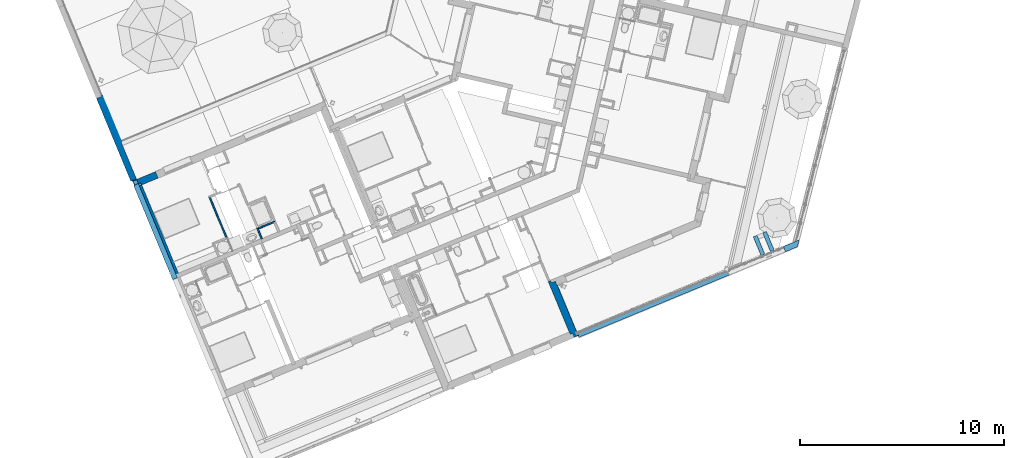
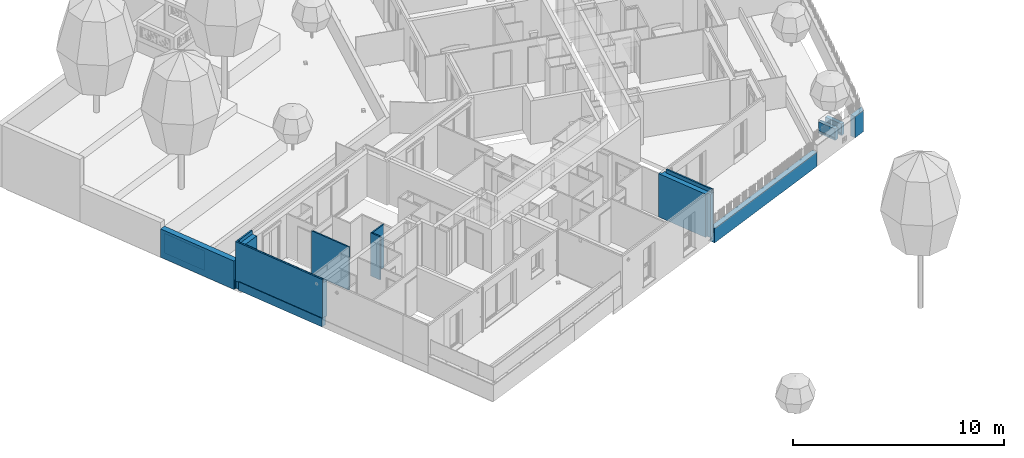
# One storey, part 39 of 119: 13 walls.
"""IFC2X3 building model written with IfcOpenShell, lengths in metres."""

from ifc_helpers import new_model, entity, si_unit, converted_unit, derived_unit, money_unit, direction, frame, origin_with_axes, place, context, subcontext, project, spatial, faceted_brep, material, material_list, type_object, element, save


model = new_model("IFC2X3")

# Units and contexts
model_context = context("Model", 3, precision=1e-05, world=origin_with_axes(), true_north=direction((0.0, 1.0)))
body_context = subcontext(model_context, "Body", "Model", "MODEL_VIEW")
ifc_project = project(units=[si_unit("LENGTHUNIT", "METRE"), si_unit("AREAUNIT", "SQUARE_METRE"), si_unit("VOLUMEUNIT", "CUBIC_METRE"), converted_unit("PLANEANGLEUNIT", "DEGREE", entity("IfcPlaneAngleMeasure", 0.0174532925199), si_unit("PLANEANGLEUNIT", "RADIAN"), dimensions=[0, 0, 0, 0, 0, 0, 0]), si_unit("SOLIDANGLEUNIT", "STERADIAN"), money_unit("EUR"), converted_unit("TIMEUNIT", "Year", entity("IfcTimeMeasure", 31556926.0), si_unit("TIMEUNIT", "SECOND"), dimensions=[0, 0, 1, 0, 0, 0, 0]), si_unit("MASSUNIT", "GRAM", prefix="KILO"), si_unit("THERMODYNAMICTEMPERATUREUNIT", "DEGREE_CELSIUS"), si_unit("LUMINOUSINTENSITYUNIT", "LUMEN"), si_unit("ENERGYUNIT", "JOULE", prefix="MEGA"), derived_unit("THERMALCONDUCTANCEUNIT", [(si_unit("POWERUNIT", "WATT"), 1), (si_unit("LENGTHUNIT", "METRE"), -1), (si_unit("THERMODYNAMICTEMPERATUREUNIT", "KELVIN"), -1)]), derived_unit("SPECIFICHEATCAPACITYUNIT", [(si_unit("ENERGYUNIT", "JOULE"), 1), (si_unit("MASSUNIT", "GRAM", prefix="KILO"), -1), (si_unit("THERMODYNAMICTEMPERATUREUNIT", "KELVIN"), -1)]), derived_unit("MASSDENSITYUNIT", [(si_unit("MASSUNIT", "GRAM", prefix="KILO"), 1), (si_unit("VOLUMEUNIT", "CUBIC_METRE"), -1)])], contexts=[model_context])

# Site, building, storey
site_placement = place(None, origin_with_axes())
site = spatial("IfcSite", under=ifc_project, at=site_placement, Name="Site", CompositionType="ELEMENT")
building_placement = place(site_placement, origin_with_axes())
building = spatial("IfcBuilding", under=site, at=building_placement, Name="Bâtiment", CompositionType="ELEMENT")
storey_placement = place(building_placement, origin_with_axes())
storey = spatial("IfcBuildingStorey", under=building, at=storey_placement, Name="Rez-de-chaussée", CompositionType="ELEMENT", Elevation=0.0)

# Walls
ifc_material_1 = material(Name="Béton")
wall_type_1 = type_object("IfcWallType", Name="Béton 250", PredefinedType="USERDEFINED")
wall_1_placement = place(storey_placement, frame((-35.2116187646, -17.8331410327, 0.0), z_axis=(0.0, 0.0, 1.0), x_axis=(0.383112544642, -0.923701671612, 0.0)))
element("IfcWall", 1, at=wall_1_placement, inside=storey, type_object=wall_type_1, material=ifc_material_1, Name="Voile projeté béton par passes alternées", ObjectType="SOLIDWALL", context=body_context, shape_type="Brep", body=[
    faceted_brep([(0.240000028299, 0.0, 0.493), (0.240000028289, -0.25, 0.493), (5.23682591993, -0.25, 0.493), (5.23682591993, 0.0, 0.493), (0.240000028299, 0.0, 0.0), (0.240000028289, -0.25, 0.0), (5.23682591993, -0.25, 0.0), (5.23682591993, 0.0, 0.0)], [[[0, 1, 2, 3]], [[4, 5, 1, 0]], [[1, 5, 6, 2]], [[7, 3, 2, 6]], [[4, 0, 3, 7]], [[5, 4, 7, 6]]]),
    faceted_brep([(0.0400000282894, -0.25, 0.493), (0.0400000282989, 0.0, 0.493), (0.0, 0.0, 0.493), (0.0, -0.25, 0.493), (0.0400000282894, -0.25, 0.0), (0.0400000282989, 0.0, 0.0), (0.0, 0.0, 0.0), (0.0, -0.25, 0.0)], [[[0, 1, 2, 3]], [[1, 0, 4, 5]], [[1, 5, 6, 2]], [[7, 3, 2, 6]], [[4, 0, 3, 7]], [[5, 4, 7, 6]]]),
])
wall_type_2 = type_object("IfcWallType", Name="Béton 300", PredefinedType="USERDEFINED")
wall_2_placement = place(storey_placement, frame((-36.8907744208, -13.7846208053, -0.03), z_axis=(0.0, 0.0, 1.0), x_axis=(0.383112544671, -0.9237016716, 0.0)))
element("IfcWall", 2, at=wall_2_placement, inside=storey, type_object=wall_type_2, material=ifc_material_1, Name="Voile projeté béton par passes alternées", ObjectType="SOLIDWALL", context=body_context, shape_type="Brep", body=[
    faceted_brep([(0.0, -0.3, 1.64189183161), (4.38293049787, -0.3, 1.64189183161), (4.38293049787, 0.0, 1.64189183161), (0.0, 0.0, 1.64189183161), (0.0, -0.3, 0.0), (4.38293049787, -0.3, 0.0), (4.38293049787, 0.0, 0.0), (0.0, 0.0, 0.0)], [[[0, 1, 2, 3]], [[4, 5, 1, 0]], [[2, 1, 5, 6]], [[3, 2, 6, 7]], [[4, 0, 3, 7]], [[7, 6, 5, 4]]]),
])
ifc_material_2 = material(Name="Parpaing 20cm")
wall_type_3 = type_object("IfcWallType", Name="Parpaing 20cm 200", PredefinedType="STANDARD")
wall_3_placement = place(storey_placement, frame((-4.39292395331, -20.3984826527, 0.0), z_axis=(0.0, 0.0, 1.0), x_axis=(0.383112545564, -0.923701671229, 0.0)))
element("IfcWall", 3, at=wall_3_placement, inside=storey, type_object=wall_type_3, material=ifc_material_2, Name="M_Ext-012", ObjectType="STANDARD", context=body_context, shape_type="Brep", body=[
    faceted_brep([(0.0, 0.0, 0.01), (0.0, 0.0, 0.110000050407), (0.955974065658, 0.0, 0.110000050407), (0.955974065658, 0.0, 0.150000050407), (0.0, 0.0, 0.150000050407), (0.0, 0.0, 0.67), (0.985000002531, 0.0, 0.67), (0.985000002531, 0.0, 0.0), (0.955974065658, 0.0, 0.0), (0.955974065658, 0.0, 0.01), (0.0, -0.2, 0.01), (0.0, -0.2, 0.110000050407), (0.956501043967, -0.2, 0.110000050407), (0.956501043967, -0.2, 0.150000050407), (0.0, -0.2, 0.150000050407), (0.0, -0.2, 0.67), (0.985000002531, -0.2, 0.67), (0.985000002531, -0.2, 0.0), (0.956501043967, -0.2, 0.0), (0.956501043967, -0.2, 0.01)], [[[0, 1, 2, 3, 4, 5, 6, 7, 8, 9]], [[10, 11, 1, 0]], [[12, 2, 1, 11]], [[13, 3, 2, 12]], [[14, 4, 3, 13]], [[5, 4, 14, 15]], [[5, 15, 16, 6]], [[7, 6, 16, 17]], [[17, 18, 8, 7]], [[19, 9, 8, 18]], [[10, 0, 9, 19]], [[13, 12, 11, 10, 19, 18, 17, 16, 15, 14]]]),
])
wall_4_placement = place(storey_placement, frame((-4.85477478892, -20.5900389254, 0.0), z_axis=(0.0, 0.0, 1.0), x_axis=(0.383112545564, -0.923701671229, 0.0)))
element("IfcWall", 4, at=wall_4_placement, inside=storey, type_object=wall_type_3, material=ifc_material_2, Name="M_Ext-012", ObjectType="STANDARD", context=body_context, shape_type="Brep", body=[
    faceted_brep([(0.0, 0.0, 0.01), (0.0, 0.0, 0.110000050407), (0.957291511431, 0.0, 0.110000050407), (0.957291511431, 0.0, 0.150000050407), (0.0, 0.0, 0.150000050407), (0.0, 0.0, 0.67), (0.985000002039, 0.0, 0.67), (0.985000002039, 0.0, 0.0), (0.957291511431, 0.0, 0.0), (0.957291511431, 0.0, 0.01), (0.0, -0.2, 0.01), (0.0, -0.2, 0.110000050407), (0.95781848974, -0.2, 0.110000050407), (0.95781848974, -0.2, 0.150000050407), (0.0, -0.2, 0.150000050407), (0.0, -0.2, 0.67), (0.985000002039, -0.2, 0.67), (0.985000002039, -0.2, 0.0), (0.95781848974, -0.2, 0.0), (0.95781848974, -0.2, 0.01)], [[[0, 1, 2, 3, 4, 5, 6, 7, 8, 9]], [[10, 11, 1, 0]], [[12, 2, 1, 11]], [[13, 3, 2, 12]], [[14, 4, 3, 13]], [[5, 4, 14, 15]], [[5, 15, 16, 6]], [[7, 6, 16, 17]], [[17, 18, 8, 7]], [[19, 9, 8, 18]], [[10, 0, 9, 19]], [[13, 12, 11, 10, 19, 18, 17, 16, 15, 14]]]),
])
ifc_material_3 = material(Name="Finition int - Plaque de plâtre")
ifc_material_4 = material(Name="Isolation - Laine de roche")
ifc_material_list_1 = material_list([ifc_material_3, ifc_material_4, ifc_material_3])
wall_type_4 = type_object("IfcWallType", Name="3 - Cloison 72mm Placostil 74", PredefinedType="USERDEFINED")
wall_5_placement = place(storey_placement, frame((-30.8490440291, -20.7036228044, 0.0), z_axis=(0.0, 0.0, 1.0), x_axis=(-0.383112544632, 0.923701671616, 0.0)))
element("IfcWall", 5, at=wall_5_placement, inside=storey, type_object=wall_type_4, material=ifc_material_list_1, Name="Cloison Placostil 72/48", ObjectType="PARTITIONING", context=body_context, shape_type="Brep", body=[
    faceted_brep([(2.16755054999, -0.013, 2.5), (2.16755054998, 0.0, 2.5), (-0.013, 0.0, 2.5), (-0.0130000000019, -0.013, 2.5), (2.16755054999, -0.013, 0.0), (2.16755054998, 0.0, 0.0), (-0.013, 0.0, 0.0), (-0.0130000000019, -0.013, 0.0)], [[[0, 1, 2, 3]], [[1, 0, 4, 5]], [[1, 5, 6, 2]], [[7, 3, 2, 6]], [[4, 0, 3, 7]], [[5, 4, 7, 6]]]),
    faceted_brep([(2.11955055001, -0.061, 2.5), (2.11955054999, -0.013, 2.5), (-0.0610000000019, -0.013, 2.5), (-0.061000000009, -0.061, 2.5), (2.11955055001, -0.061, 0.0), (2.11955054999, -0.013, 0.0), (-0.0610000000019, -0.013, 0.0), (-0.061000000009, -0.061, 0.0)], [[[0, 1, 2, 3]], [[1, 0, 4, 5]], [[1, 5, 6, 2]], [[7, 3, 2, 6]], [[4, 0, 3, 7]], [[5, 4, 7, 6]]]),
    faceted_brep([(2.10655055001, -0.074, 2.5), (2.10655055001, -0.061, 2.5), (-0.074000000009, -0.061, 2.5), (-0.0740000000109, -0.074, 2.5), (2.10655055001, -0.074, 0.0), (2.10655055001, -0.061, 0.0), (-0.074000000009, -0.061, 0.0), (-0.0740000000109, -0.074, 0.0)], [[[0, 1, 2, 3]], [[1, 0, 4, 5]], [[1, 5, 6, 2]], [[7, 3, 2, 6]], [[4, 0, 3, 7]], [[5, 4, 7, 6]]]),
])
wall_type_5 = type_object("IfcWallType", Name="3 - Cloison Gaine Technique 72mm 74", PredefinedType="USERDEFINED")
wall_6_placement = place(storey_placement, frame((-29.3334564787, -20.2493196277, 0.0), z_axis=(0.0, 0.0, 1.0), x_axis=(0.923701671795, 0.383112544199, 0.0)))
element("IfcWall", 6, at=wall_6_placement, inside=storey, type_object=wall_type_5, material=ifc_material_list_1, Name="Cloison Placostil 72/48", ObjectType="PARTITIONING", context=body_context, shape_type="Brep", body=[
    faceted_brep([(0.0130000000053, -0.013, 0.0), (0.926000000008, -0.013, 0.0), (0.926000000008, -0.013, 2.5), (0.0130000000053, -0.013, 2.5), (0.013, 0.0, 0.0), (0.926000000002, 0.0, 0.0), (0.926000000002, 0.0, 2.5), (0.013, 0.0, 2.5)], [[[0, 1, 2, 3]], [[4, 5, 1, 0]], [[5, 6, 2, 1]], [[3, 2, 6, 7]], [[4, 0, 3, 7]], [[7, 6, 5, 4]]]),
    faceted_brep([(0.0610000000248, -0.061, 2.5), (0.96100000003, -0.061, 2.5), (0.961000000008, -0.013, 2.5), (0.0610000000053, -0.013, 2.5), (0.0610000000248, -0.061, 0.0), (0.96100000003, -0.061, 0.0), (0.961000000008, -0.013, 0.0), (0.0610000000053, -0.013, 0.0)], [[[0, 1, 2, 3]], [[4, 5, 1, 0]], [[6, 2, 1, 5]], [[3, 2, 6, 7]], [[7, 4, 0, 3]], [[7, 6, 5, 4]]]),
    faceted_brep([(0.0740000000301, -0.074, 2.5), (0.900000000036, -0.074, 2.5), (0.90000000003, -0.061, 2.5), (0.0740000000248, -0.061, 2.5), (0.0740000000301, -0.074, 0.0), (0.900000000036, -0.074, 0.0), (0.90000000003, -0.061, 0.0), (0.0740000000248, -0.061, 0.0)], [[[0, 1, 2, 3]], [[4, 5, 1, 0]], [[6, 2, 1, 5]], [[3, 2, 6, 7]], [[7, 4, 0, 3]], [[7, 6, 5, 4]]]),
])
wall_7_placement = place(storey_placement, frame((-29.112017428, -20.7832191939, 0.0), z_axis=(0.0, 0.0, 1.0), x_axis=(-0.383112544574, 0.92370167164, 0.0)))
element("IfcWall", 7, at=wall_7_placement, inside=storey, type_object=wall_type_5, material=ifc_material_list_1, Name="Cloison Placostil 72/48", ObjectType="PARTITIONING", context=body_context, shape_type="Brep", body=[
    faceted_brep([(0.577999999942, -0.013, 2.5), (0.577999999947, 0.0, 2.5), (0.00499999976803, 0.0, 2.5), (0.00499999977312, -0.013, 2.5), (0.577999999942, -0.013, 0.0), (0.577999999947, 0.0, 0.0), (0.00499999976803, 0.0, 0.0), (0.00499999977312, -0.013, 0.0)], [[[0, 1, 2, 3]], [[1, 0, 4, 5]], [[1, 5, 6, 2]], [[7, 3, 2, 6]], [[4, 0, 3, 7]], [[5, 4, 7, 6]]]),
    faceted_brep([(0.564999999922, -0.061, 2.5), (0.564999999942, -0.013, 2.5), (0.00499999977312, -0.013, 2.5), (0.00499999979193, -0.061, 2.5), (0.564999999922, -0.061, 0.0), (0.564999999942, -0.013, 0.0), (0.00499999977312, -0.013, 0.0), (0.00499999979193, -0.061, 0.0)], [[[0, 1, 2, 3]], [[1, 0, 4, 5]], [[1, 5, 6, 2]], [[7, 3, 2, 6]], [[4, 0, 3, 7]], [[5, 4, 7, 6]]]),
    faceted_brep([(0.516999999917, -0.074, 2.5), (0.516999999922, -0.061, 2.5), (0.00499999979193, -0.061, 2.5), (0.00499999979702, -0.074, 2.5), (0.516999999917, -0.074, 0.0), (0.516999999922, -0.061, 0.0), (0.00499999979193, -0.061, 0.0), (0.00499999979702, -0.074, 0.0)], [[[0, 1, 2, 3]], [[1, 0, 4, 5]], [[1, 5, 6, 2]], [[7, 3, 2, 6]], [[4, 0, 3, 7]], [[5, 4, 7, 6]]]),
])
ifc_material_5 = material(Name="Métal - Aluminium")
ifc_material_6 = material(Name="Finition ext - Crépis")
ifc_material_7 = material(Name="Etanchéité - Bitume")
ifc_material_8 = material(Name="Béton cellulaire")
ifc_material_9 = material(Name="Mortier")
ifc_material_10 = material(Name="Isolation - Polystyrène expansé")
ifc_material_11 = material(Name="Bloc ELITHERM")
ifc_material_12 = material(Name="Isolation - Polystyrène extrudé")
ifc_material_list_2 = material_list([ifc_material_5, ifc_material_6, ifc_material_7, ifc_material_8, ifc_material_9, ifc_material_10, ifc_material_11, ifc_material_12, ifc_material_3])
wall_type_6 = type_object("IfcWallType", Name="Mur ALKERN + planelle 21 TERRASSE RDC 356 x 2720", PredefinedType="USERDEFINED")
wall_8_placement = place(storey_placement, frame((-14.6068307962, -23.0338728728, 0.0), z_axis=(0.0, 0.0, 1.0), x_axis=(0.383112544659, -0.923701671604, 0.0)))
element("IfcWall", 8, at=wall_8_placement, inside=storey, type_object=wall_type_6, material=ifc_material_list_2, Name="Mue bloc ALKERN isolé", ObjectType="SOLIDWALL", context=body_context, shape_type="Brep", body=[
    faceted_brep([(-0.0310453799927, -0.0300000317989, 0.176532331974), (-0.0310453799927, -0.03, 0.207793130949), (2.67876148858, -0.03, 0.207793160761), (2.67876148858, -0.0300000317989, 0.176532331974), (-0.0310453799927, -0.0310453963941, 0.207793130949), (-0.0310453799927, -0.0310453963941, 0.176532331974), (2.67876148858, -0.0310453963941, 0.207793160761), (2.67876148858, -0.0310453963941, 0.169727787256), (2.67876148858, -0.03, 0.169414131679), (2.67876148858, -0.00479482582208, 0.161852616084), (2.67876148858, -0.00479482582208, 0.133633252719), (2.67876148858, -0.0035607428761, 0.133633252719), (2.67876148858, -0.0035607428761, 0.162931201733), (2.67876148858, -0.03, 0.170774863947), (-0.0310453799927, -0.03, 0.170774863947), (-0.0310453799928, -0.0264705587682, 0.169727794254), (-0.0310453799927, -0.0310453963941, 0.169727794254), (-0.0299999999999, -0.03, 0.169414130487), (-0.00479484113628, -0.00479482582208, 0.161852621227), (-0.00479484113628, -0.00479482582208, 0.160000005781), (-0.00479484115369, -0.00479482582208, 0.133633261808), (-0.0047948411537, -0.0035607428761, 0.133633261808), (-0.00479484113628, -0.0035607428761, 0.161852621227), (-0.00839013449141, -0.0035607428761, 0.162931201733), (-0.00479484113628, -0.0035607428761, 0.160000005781), (-0.0299999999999, -0.025413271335, 0.169414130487)], [[[0, 1, 2, 3]], [[4, 1, 0, 5]], [[1, 4, 6, 2]], [[3, 2, 6, 7, 8, 9, 10, 11, 12, 13]], [[0, 3, 13, 14]], [[5, 0, 14, 15, 16]], [[4, 5, 16, 7, 6]], [[17, 8, 7, 16]], [[9, 8, 17, 18]], [[9, 18, 19, 20, 10]], [[11, 10, 20, 21]], [[22, 23, 12, 11, 21, 24]], [[12, 23, 25, 15, 14, 13]], [[25, 17, 16, 15]], [[23, 22, 18, 17, 25]], [[19, 18, 22, 24]], [[21, 20, 19, 24]]]),
    faceted_brep([(-0.0299999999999, -0.0299999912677, 2.72), (1.96999999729, -0.0299999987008, 2.72), (1.96999999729, -0.0150000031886, 2.72), (-0.03, -0.0150000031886, 2.72), (2.67876148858, -0.0299999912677, 2.72), (2.12999999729, -0.0299999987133, 2.72), (2.12999999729, -0.0299999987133, 2.51999999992), (2.12999999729, -0.0299999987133, 2.50955), (2.12999999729, -0.0299999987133, 2.50872065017), (2.12999999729, -0.0299999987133, 2.5), (2.11499999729, -0.0299999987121, 2.5), (2.0952590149, -0.0299999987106, 2.5), (1.96999999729, -0.0299999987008, 2.5), (1.96999999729, -0.0299999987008, 2.50872065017), (1.96999999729, -0.0299999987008, 2.50955), (1.96999999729, -0.0299999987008, 2.51999999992), (-0.0299999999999, -0.0300000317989, 2.51999999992), (-0.0299999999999, -0.0300000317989, 2.50955), (-0.0299999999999, -0.0300000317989, 0.207793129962), (-0.0300000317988, -0.0300000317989, 0.176532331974), (2.67876148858, -0.0300000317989, 0.176532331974), (1.96999999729, -0.0150000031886, 2.51999999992), (2.12999999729, -0.0150000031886, 2.50955), (2.12999999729, -0.0150000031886, 2.51999999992), (2.12999999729, -0.0150000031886, 2.72), (2.67876148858, -0.0150000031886, 2.72), (2.67876148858, -0.0150000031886, 0.176532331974), (-0.0300000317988, -0.0150000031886, 0.176532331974), (-0.0299999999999, -0.0150000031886, 0.207793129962), (-0.0299999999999, -0.0150000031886, 2.50955), (-0.0299999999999, -0.0150000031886, 2.51999999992), (1.96999999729, -0.0150000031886, 2.50955), (1.96999999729, -0.0150000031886, 2.50872065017), (1.96999999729, -0.0150000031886, 2.5), (2.09525901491, -0.0150000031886, 2.5), (2.11499999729, -0.0150000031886, 2.5), (2.12999999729, -0.0150000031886, 2.5), (2.12999999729, -0.0150000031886, 2.50872065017)], [[[0, 1, 2, 3]], [[4, 5, 6, 7, 8, 9, 10, 11, 12, 13, 14, 15, 1, 0, 16, 17, 18, 19, 20]], [[15, 21, 2, 1]], [[22, 23, 24, 25, 26, 27, 28, 29, 30, 3, 2, 21, 31, 32, 33, 34, 35, 36, 37]], [[16, 0, 3, 30]], [[25, 24, 5, 4]], [[6, 5, 24, 23]], [[7, 6, 23, 22]], [[8, 7, 22, 37]], [[9, 8, 37, 36]], [[9, 36, 35, 10]], [[11, 10, 35, 34]], [[12, 11, 34, 33]], [[33, 32, 13, 12]], [[32, 31, 14, 13]], [[31, 21, 15, 14]], [[17, 16, 30, 29]], [[18, 17, 29, 28]], [[19, 18, 28, 27]], [[20, 19, 27, 26]], [[4, 20, 26, 25]]]),
    faceted_brep([(2.46229456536, -0.02, 0.01), (-0.029999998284, -0.02, 0.01), (-0.0300000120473, -0.02, 0.160000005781), (2.66376152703, -0.02, 0.160000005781), (2.66376152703, -0.02, 0.0), (2.46229456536, -0.02, 0.0), (2.46229456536, -0.0299999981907, 0.01), (-0.029999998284, -0.0299999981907, 0.01), (-0.0300000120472, -0.0300000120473, 0.160000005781), (2.66376152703, -0.0300000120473, 0.160000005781), (2.66376152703, -0.0300000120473, 0.0), (2.46229456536, -0.0299999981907, 0.0)], [[[0, 1, 2, 3, 4, 5]], [[1, 0, 6, 7]], [[1, 7, 8, 2]], [[8, 9, 3, 2]], [[4, 3, 9, 10]], [[11, 5, 4, 10]], [[0, 5, 11, 6]], [[6, 11, 10, 9, 8, 7]]]),
    faceted_brep([(2.66376152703, -0.0780000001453, 2.72), (2.66376152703, -0.03, 2.72), (-0.0780000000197, -0.03, 2.72), (-0.0780000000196, -0.0780000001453, 2.72), (2.66376152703, -0.03, 2.51999999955), (2.66376152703, -0.0780000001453, 2.51999999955), (-0.0780000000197, -0.03, 2.51999999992), (-0.0780000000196, -0.0780000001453, 2.51999999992)], [[[0, 1, 2, 3]], [[4, 1, 0, 5]], [[1, 4, 6, 2]], [[3, 2, 6, 7]], [[5, 0, 3, 7]], [[4, 5, 7, 6]]]),
    faceted_brep([(2.66376152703, -0.03, 2.51999999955), (2.66376152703, -0.03, 2.50999999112), (2.67876151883, -0.03, 2.50999999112), (2.67876148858, -0.03, 2.50955000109), (-0.0980000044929, -0.03, 2.50955002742), (-0.0980000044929, -0.03, 2.52), (2.66376152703, -0.098, 2.51999999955), (2.66376152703, -0.098, 2.50999999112), (2.67876151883, -0.098, 2.50999999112), (2.67876148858, -0.098, 2.50955000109), (-0.0980000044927, -0.098, 2.50955002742), (-0.0980000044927, -0.098, 2.52)], [[[0, 1, 2, 3, 4, 5]], [[1, 0, 6, 7]], [[8, 2, 1, 7]], [[2, 8, 9, 3]], [[4, 3, 9, 10]], [[10, 11, 5, 4]], [[6, 0, 5, 11]], [[7, 6, 11, 10, 9, 8]]]),
    faceted_brep([(-0.0978967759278, -0.0780000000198, 2.51999999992), (-0.0978967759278, -0.0780000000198, 2.72), (2.61576151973, -0.0780000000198, 2.72), (2.61576151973, -0.0780000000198, 2.51999999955), (-0.0978537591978, -0.09799984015, 2.72), (-0.0978537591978, -0.09799984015, 2.51999999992), (2.61576151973, -0.0980000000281, 2.72), (2.61576151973, -0.0980000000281, 2.51999999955)], [[[0, 1, 2, 3]], [[4, 1, 0, 5]], [[1, 4, 6, 2]], [[7, 3, 2, 6]], [[5, 0, 3, 7]], [[4, 5, 7, 6]]]),
    faceted_brep([(2.66376152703, -0.0979999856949, 2.50955), (2.66376152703, -0.03, 2.50955), (-0.22999997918, -0.03, 2.50955001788), (-0.22999997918, -0.0979999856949, 2.50955001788), (2.66376152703, -0.03, 0.207793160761), (2.66376152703, -0.229999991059, 2.50955), (2.66376152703, -0.229999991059, 0.207793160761), (2.66376152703, -0.0310453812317, 0.207793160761), (-0.22999997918, -0.03, 0.207793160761), (-0.229999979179, -0.229999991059, 2.50955001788), (-0.22999997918, -0.0310453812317, 0.207793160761), (-0.229999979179, -0.229999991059, 0.207793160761), (-0.229999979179, -0.229999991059, 0.176532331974), (-0.229999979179, -0.229999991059, 0.169414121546), (-0.229999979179, -0.229999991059, 0.160000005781), (-0.229999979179, -0.229999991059, 0.133633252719), (-0.229999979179, -0.229999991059, 0.0), (2.66376152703, -0.229999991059, 0.0), (2.66376152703, -0.229999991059, 0.133633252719), (2.66376152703, -0.229999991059, 0.160000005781), (2.66376152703, -0.229999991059, 0.169414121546), (2.66376152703, -0.229999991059, 0.176532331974), (2.66376152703, -0.0310453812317, 0.176532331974), (-0.22999997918, -0.0310453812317, 0.176532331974), (-0.22999997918, -0.0310453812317, 0.169727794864), (-0.22999997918, -0.03, 0.169414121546), (-0.22999997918, -0.0300000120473, 0.160000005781), (-0.22999997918, -0.0300000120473, 0.133633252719), (-0.22999997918, -0.03, 0.0), (2.66376152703, -0.03, 0.0), (2.66376152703, -0.0300000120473, 0.133633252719), (2.66376152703, -0.0300000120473, 0.160000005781), (2.66376152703, -0.03, 0.169414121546), (2.66376152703, -0.0310453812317, 0.169727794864)], [[[0, 1, 2, 3]], [[4, 1, 0, 5, 6, 7]], [[1, 4, 8, 2]], [[9, 3, 2, 8, 10, 11]], [[5, 0, 3, 9]], [[6, 5, 9, 11, 12, 13, 14, 15, 16, 17, 18, 19, 20, 21]], [[7, 6, 21, 22]], [[4, 7, 10, 8]], [[12, 11, 10, 23]], [[23, 24, 25, 13, 12]], [[25, 26, 14, 13]], [[27, 15, 14, 26]], [[16, 15, 27, 28]], [[17, 16, 28, 29]], [[30, 18, 17, 29]], [[30, 31, 19, 18]], [[19, 31, 32, 20]], [[20, 32, 33, 22, 21]], [[24, 23, 10, 7, 22, 33]], [[25, 24, 33, 32]], [[25, 32, 31, 26]], [[31, 30, 29, 28, 27, 26]]]),
    faceted_brep([(-0.350000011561, -0.350000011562, 2.50955001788), (2.46376152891, -0.350000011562, 2.50955), (2.46376152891, -0.22999997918, 2.50955), (-0.350000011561, -0.22999997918, 2.50955001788), (2.46376152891, -0.350000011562, 0.176532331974), (2.46376152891, -0.350000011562, 0.207793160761), (-0.350000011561, -0.350000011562, 0.207793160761), (-0.350000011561, -0.350000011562, 0.176532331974), (-0.350000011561, -0.350000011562, 0.169414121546), (-0.350000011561, -0.350000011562, 0.160000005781), (-0.350000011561, -0.350000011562, 0.133633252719), (-0.350000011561, -0.350000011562, 0.0), (2.46376152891, -0.350000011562, 1.4305127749e-08), (2.46376152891, -0.350000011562, 0.133633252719), (2.46376152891, -0.350000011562, 0.160000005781), (2.46376152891, -0.350000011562, 0.169414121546), (2.46376152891, -0.22999997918, 0.207793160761), (2.46376152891, -0.22999997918, 0.176532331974), (2.46376152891, -0.22999997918, 0.169414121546), (2.46376152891, -0.22999997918, 0.160000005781), (2.46376152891, -0.22999997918, 0.133633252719), (2.46376152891, -0.22999997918, 1.4305127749e-08), (-0.350000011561, -0.22999997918, 0.0), (-0.350000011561, -0.22999997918, 0.133633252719), (-0.350000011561, -0.22999997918, 0.160000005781), (-0.350000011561, -0.22999997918, 0.169414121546), (-0.350000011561, -0.22999997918, 0.176532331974), (-0.350000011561, -0.22999997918, 0.207793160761)], [[[0, 1, 2, 3]], [[4, 5, 1, 0, 6, 7, 8, 9, 10, 11, 12, 13, 14, 15]], [[5, 16, 2, 1]], [[3, 2, 16, 17, 18, 19, 20, 21, 22, 23, 24, 25, 26, 27]], [[6, 0, 3, 27]], [[17, 16, 5, 4]], [[7, 6, 27, 26]], [[8, 7, 26, 25]], [[9, 8, 25, 24]], [[10, 9, 24, 23]], [[11, 10, 23, 22]], [[22, 21, 12, 11]], [[21, 20, 13, 12]], [[20, 19, 14, 13]], [[19, 18, 15, 14]], [[18, 17, 4, 15]]]),
    faceted_brep([(-0.360000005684, -0.359999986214, 2.50955002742), (2.34376150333, -0.359999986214, 2.50955), (2.34376150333, -0.350000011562, 2.50955), (-0.360000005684, -0.350000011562, 2.50955002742), (2.34376150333, -0.359999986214, 0.176532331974), (2.34376150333, -0.359999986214, 0.207793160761), (-0.360000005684, -0.359999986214, 0.0), (2.34376150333, -0.359999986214, 0.0), (2.34376150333, -0.359999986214, 0.133633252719), (2.34376150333, -0.359999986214, 0.160000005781), (2.34376150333, -0.359999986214, 0.169414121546), (2.34376150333, -0.350000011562, 0.207793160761), (2.34376150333, -0.350000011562, 0.176532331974), (2.34376150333, -0.350000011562, 0.169414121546), (2.34376150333, -0.350000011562, 0.160000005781), (2.34376150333, -0.350000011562, 0.133633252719), (2.34376150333, -0.350000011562, 0.0), (-0.360000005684, -0.350000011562, 0.0)], [[[0, 1, 2, 3]], [[4, 5, 1, 0, 6, 7, 8, 9, 10]], [[5, 11, 2, 1]], [[3, 2, 11, 12, 13, 14, 15, 16, 17]], [[17, 6, 0, 3]], [[12, 11, 5, 4]], [[17, 16, 7, 6]], [[16, 15, 8, 7]], [[15, 14, 9, 8]], [[14, 13, 10, 9]], [[13, 12, 4, 10]]]),
])
ifc_material_13 = material(Name="Etanchéité résine")
ifc_material_list_3 = material_list([ifc_material_6, ifc_material_1, ifc_material_13, ifc_material_12, ifc_material_3])
wall_type_7 = type_object("IfcWallType", Name="1 - Mur Extérieur BETON étanché+Isolant 120 + ravalement 345", PredefinedType="USERDEFINED")
wall_9_placement = place(storey_placement, frame((-35.3810345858, -17.9467116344, 0.0), z_axis=(0.0, 0.0, 1.0), x_axis=(0.923701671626, 0.383112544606, 0.0)))
element("IfcWall", 9, at=wall_9_placement, inside=storey, type_object=wall_type_7, material=ifc_material_list_3, Name="M_Ext-009", ObjectType="SOLIDWALL", context=body_context, shape_type="Brep", body=[
    faceted_brep([(-6.53798792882e-10, 0.0, 0.493), (0.199999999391, 0.0, 0.493), (0.199999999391, 0.0, 0.0), (1.19999999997, 0.0, 0.0), (1.19999999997, 0.0, 2.72), (-6.53798792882e-10, 0.0, 2.72), (0.199999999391, 0.0150000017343, 0.493), (-6.54644338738e-10, 0.015, 0.493), (0.199999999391, 0.0150000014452, 0.0), (1.19999999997, 0.015, 0.0), (1.19999999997, 0.015, 2.72), (-6.54644338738e-10, 0.015, 2.72)], [[[0, 1, 2, 3, 4, 5]], [[6, 1, 0, 7]], [[8, 2, 1, 6]], [[3, 2, 8, 9]], [[3, 9, 10, 4]], [[10, 11, 5, 4]], [[11, 7, 0, 5]], [[8, 6, 7, 11, 10, 9]]]),
    faceted_brep([(1.19999999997, -0.0679999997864, 2.72), (1.19999999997, -0.0679999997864, 2.51), (1.19999999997, -0.2, 2.51), (1.19999999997, -0.2, 0.0), (1.19999999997, 0.0, 0.0), (1.19999999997, 0.0, 2.72), (0.19999999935, -0.0679999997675, 2.72), (0.19999999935, -0.0679999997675, 2.51), (0.199999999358, -0.2, 2.51), (0.199999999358, -0.2, 0.433099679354), (-6.42423003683e-10, -0.2, 0.433099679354), (0.0, -0.2, 0.0), (0.0, 0.0, 0.0), (-6.53798792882e-10, 0.0, 0.433099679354), (0.199999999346, 0.0, 0.433099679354), (0.199999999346, 0.0, 2.72)], [[[0, 1, 2, 3, 4, 5]], [[1, 0, 6, 7]], [[8, 2, 1, 7]], [[2, 8, 9, 10, 11, 3]], [[4, 3, 11, 12]], [[13, 14, 15, 5, 4, 12]], [[6, 0, 5, 15]], [[7, 6, 15, 14, 9, 8]], [[13, 10, 9, 14]], [[11, 10, 13, 12]]]),
    faceted_brep([(1.19999999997, -0.2, 2.51), (1.19999999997, -0.21, 2.51), (1.19999999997, -0.21, 0.0), (1.19999999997, -0.2, 0.0), (0.209999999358, -0.21, 2.51), (0.209999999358, -0.2, 2.51), (0.209999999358, -0.21, 0.433099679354), (0.199999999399, -0.21, 0.433099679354), (0.199999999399, -0.21, 0.0), (0.199999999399, -0.2, 0.0), (0.199999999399, -0.2, 0.433099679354), (0.209999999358, -0.2, 0.433099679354)], [[[0, 1, 2, 3]], [[4, 1, 0, 5]], [[1, 4, 6, 7, 8, 2]], [[2, 8, 9, 3]], [[5, 0, 3, 9, 10, 11]], [[4, 5, 11, 6]], [[11, 10, 7, 6]], [[9, 8, 7, 10]]]),
    faceted_brep([(1.19999999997, -0.21, 2.51), (1.19999999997, -0.32, 2.51), (1.19999999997, -0.32, 0.0), (1.19999999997, -0.21, 0.0), (0.319999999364, -0.32, 2.51), (0.319999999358, -0.21, 2.51), (0.319999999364, -0.32, 0.433099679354), (0.199999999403, -0.32, 0.433099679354), (0.199999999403, -0.32, 0.0), (0.199999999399, -0.21, 0.0), (0.199999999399, -0.21, 0.433099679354), (0.319999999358, -0.21, 0.433099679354)], [[[0, 1, 2, 3]], [[4, 1, 0, 5]], [[1, 4, 6, 7, 8, 2]], [[2, 8, 9, 3]], [[5, 0, 3, 9, 10, 11]], [[4, 5, 11, 6]], [[11, 10, 7, 6]], [[9, 8, 7, 10]]]),
    faceted_brep([(1.19999999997, -0.32, 2.51), (1.19999999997, -0.33, 2.51), (1.19999999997, -0.33, 0.0), (1.19999999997, -0.32, 0.0), (0.329999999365, -0.33, 2.51), (0.329999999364, -0.32, 2.51), (0.329999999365, -0.33, 0.433099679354), (0.199999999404, -0.33, 0.433099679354), (0.199999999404, -0.33, 0.0), (0.199999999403, -0.32, 0.0), (0.199999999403, -0.32, 0.433099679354), (0.329999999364, -0.32, 0.433099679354)], [[[0, 1, 2, 3]], [[4, 1, 0, 5]], [[1, 4, 6, 7, 8, 2]], [[2, 8, 9, 3]], [[5, 0, 3, 9, 10, 11]], [[4, 5, 11, 6]], [[11, 10, 7, 6]], [[9, 8, 7, 10]]]),
])
ifc_material_list_4 = material_list([ifc_material_3, ifc_material_12, ifc_material_13, ifc_material_1, ifc_material_6])
wall_10_placement = place(storey_placement, frame((-35.3810345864, -17.9467116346, 0.433099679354), z_axis=(0.0, 0.0, 1.0), x_axis=(0.383112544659, -0.923701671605, 0.0)))
element("IfcWall", 10, at=wall_10_placement, inside=storey, type_object=wall_type_7, material=ifc_material_list_4, Name="M_Ext-009", ObjectType="SOLIDWALL", context=body_context, shape_type="Brep", body=[
    faceted_brep([(0.320000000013, 0.33, 2.07690032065), (5.19682589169, 0.33, 2.07690032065), (5.19682589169, 0.33, 0.0), (0.320000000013, 0.33, 0.0), (5.19682589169, 0.32, 2.07690032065), (0.320000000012, 0.32, 2.07690032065), (5.19682589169, 0.32, 0.0), (0.320000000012, 0.32, 0.0)], [[[0, 1, 2, 3]], [[4, 1, 0, 5]], [[1, 4, 6, 2]], [[3, 2, 6, 7]], [[5, 0, 3, 7]], [[4, 5, 7, 6]]]),
    faceted_brep([(0.210000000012, 0.32, 2.07690032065), (5.19682589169, 0.32, 2.07690032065), (5.19682589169, 0.32, 0.0), (0.210000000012, 0.32, 0.0), (5.19682589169, 0.21, 2.07690032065), (0.210000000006, 0.21, 2.07690032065), (5.19682589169, 0.21, 0.0), (0.210000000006, 0.21, 0.0)], [[[0, 1, 2, 3]], [[4, 1, 0, 5]], [[1, 4, 6, 2]], [[3, 2, 6, 7]], [[5, 0, 3, 7]], [[4, 5, 7, 6]]]),
    faceted_brep([(0.200000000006, 0.21, 2.07690032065), (5.19682589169, 0.21, 2.07690032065), (5.19682589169, 0.21, 0.0), (0.200000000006, 0.21, 0.0), (5.19682589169, 0.2, 2.07690032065), (0.200000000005, 0.2, 2.07690032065), (5.19682589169, 0.2, 0.0), (0.200000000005, 0.2, 0.0)], [[[0, 1, 2, 3]], [[4, 1, 0, 5]], [[1, 4, 6, 2]], [[3, 2, 6, 7]], [[5, 0, 3, 7]], [[4, 5, 7, 6]]]),
    faceted_brep([(0.0679999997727, 0.2, 2.28690032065), (0.0679999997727, 0.2, 2.07690032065), (5.19682589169, 0.2, 2.07690032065), (5.19682589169, 0.2, 0.0), (0.0, 0.2, 0.0), (0.0, 0.2, 2.28690032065), (0.0679999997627, 0.0679999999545, 2.28690032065), (0.0679999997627, 0.0679999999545, 2.07690032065), (5.19682589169, 0.0679999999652, 2.07690032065), (5.19682589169, 0.0679999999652, 2.28690032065), (5.19682589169, 0.0, 2.28690032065), (5.19682589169, 0.0, 0.0), (0.0, 0.0, 0.0), (0.0, 0.0, 2.28690032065)], [[[0, 1, 2, 3, 4, 5]], [[1, 0, 6, 7]], [[8, 2, 1, 7]], [[8, 9, 10, 11, 3, 2]], [[4, 3, 11, 12]], [[5, 4, 12, 13]], [[6, 0, 5, 13, 10, 9]], [[6, 9, 8, 7]], [[12, 11, 10, 13]]]),
    faceted_brep([(5.19682589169, 0.0, 0.0), (5.19682589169, -0.015, 0.0), (-0.015000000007, -0.015, 0.0), (-0.0150000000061, 0.0, 0.0), (5.19682589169, 0.0, 2.28690032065), (5.19682589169, -0.015, 2.28690032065), (-0.015000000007, -0.015, 2.28690032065), (-0.0150000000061, 0.0, 2.28690032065)], [[[0, 1, 2, 3]], [[0, 4, 5, 1]], [[1, 5, 6, 2]], [[3, 2, 6, 7]], [[4, 0, 3, 7]], [[5, 4, 7, 6]]]),
])
ifc_material_14 = material(Name="Pierre")
ifc_material_list_5 = material_list([ifc_material_1, ifc_material_14])
wall_type_8 = type_object("IfcWallType", Name="1 - Mur BETON 20+ PAREMENT PIERRE 280", PredefinedType="USERDEFINED")
wall_11_placement = place(storey_placement, frame((-3.46464710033, -21.3992013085, -0.37), z_axis=(0.0, 0.0, 1.0), x_axis=(0.923701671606, 0.383112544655, 0.0)))
element("IfcWall", 11, at=wall_11_placement, inside=storey, type_object=wall_type_8, material=ifc_material_list_5, Name="Mur béton 20cm", ObjectType="PARAPET", context=body_context, shape_type="Brep", body=[
    faceted_brep([(0.642406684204, 0.28, 1.22400000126), (0.642406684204, 0.28, 1.22389818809), (0.851877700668, 0.28, 1.22389818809), (0.851877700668, 0.28, 0.0), (0.0, 0.28, 0.0), (0.0, 0.28, 1.224), (0.642406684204, 0.080000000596, 1.22400000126), (0.642406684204, 0.080000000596, 1.22389818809), (0.702255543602, 0.080000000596, 1.22389818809), (0.702255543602, 0.08, 0.0), (0.0, 0.08, 0.0), (0.0, 0.08, 1.224)], [[[0, 1, 2, 3, 4, 5]], [[0, 6, 7, 1]], [[8, 2, 1, 7]], [[2, 8, 9, 3]], [[3, 9, 10, 4]], [[5, 4, 10, 11]], [[6, 0, 5, 11]], [[7, 6, 11, 10, 9, 8]]]),
    faceted_brep([(0.642406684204, 0.080000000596, 1.22400000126), (0.642406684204, 0.080000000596, 1.22389818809), (0.702255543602, 0.080000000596, 1.22389818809), (0.702255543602, 0.08, 0.0), (0.0, 0.08, 0.0), (0.0, 0.08, 1.224), (0.642406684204, 0.0, 1.22400000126), (0.642406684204, 0.0, 1.22389818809), (0.642406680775, 0.0, 0.0), (0.0, 0.0, 0.0), (0.0, 0.0, 1.224)], [[[0, 1, 2, 3, 4, 5]], [[0, 6, 7, 1]], [[7, 2, 1]], [[2, 7, 8, 3]], [[3, 8, 9, 4]], [[5, 4, 9, 10]], [[6, 0, 5, 10]], [[7, 6, 10, 9, 8]]]),
])
wall_12_placement = place(storey_placement, frame((-13.5793167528, -25.5895616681, -0.37), z_axis=(0.0, 0.0, 1.0), x_axis=(0.923701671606, 0.383112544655, 0.0)))
element("IfcWall", 12, at=wall_12_placement, inside=storey, type_object=wall_type_8, material=ifc_material_list_5, Name="Mur béton 20cm", ObjectType="PARAPET", context=body_context, shape_type="Brep", body=[
    faceted_brep([(7.99199891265, 0.28, 0.0), (7.99199891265, 0.08, 0.0), (0.0, 0.08, 0.0), (0.0, 0.28, 0.0), (7.99199891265, 0.28, 0.825111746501), (7.99199891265, 0.08, 0.825111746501), (0.0, 0.08, 0.825111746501), (0.0, 0.28, 0.825111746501)], [[[0, 1, 2, 3]], [[0, 4, 5, 1]], [[1, 5, 6, 2]], [[3, 2, 6, 7]], [[4, 0, 3, 7]], [[5, 4, 7, 6]]]),
    faceted_brep([(7.99199891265, 0.08, 0.0), (7.99199891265, 0.0, 0.0), (0.0, 0.0, 0.0), (0.0, 0.08, 0.0), (7.99199891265, 0.08, 0.825111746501), (7.99199891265, 0.0, 0.825111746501), (0.0, 0.0, 0.825111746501), (0.0, 0.08, 0.825111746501)], [[[0, 1, 2, 3]], [[0, 4, 5, 1]], [[1, 5, 6, 2]], [[3, 2, 6, 7]], [[4, 0, 3, 7]], [[5, 4, 7, 6]]]),
])
ifc_material_15 = material(Name="Etanchéité résine bitumeuse")
wall_type_9 = type_object("IfcWallType", Name="Etanchéité résine bitumeuse 10", PredefinedType="USERDEFINED")
wall_13_placement = place(storey_placement, frame((-36.8815374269, -13.7807896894, 0.01), z_axis=(0.0, 0.0, 1.0), x_axis=(0.383112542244, -0.923701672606, 0.0)))
element("IfcWall", 13, at=wall_13_placement, inside=storey, type_object=wall_type_9, material=ifc_material_15, Name="M_Ext-009", ObjectType="SOLIDWALL", context=body_context, shape_type="Brep", body=[
    faceted_brep([(2.38793047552, -0.01, 1.19), (2.38793047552, -0.00999996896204, 0.04), (2.38793047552, 0.0, 0.04), (2.38793047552, 0.0, 1.19), (0.0, -0.01, 1.19), (0.0, -0.00999997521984, 0.04), (0.0, 0.0, 0.04), (0.0, 0.0, 1.19)], [[[0, 1, 2, 3]], [[4, 5, 1, 0]], [[5, 6, 2, 1]], [[3, 2, 6, 7]], [[7, 4, 0, 3]], [[7, 6, 5, 4]]]),
])

save(model, "model.ifc")
